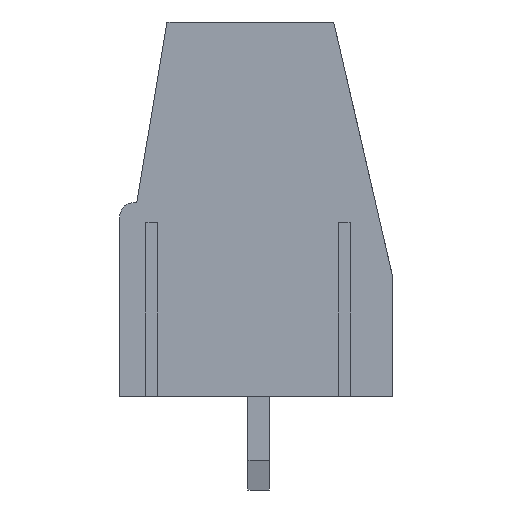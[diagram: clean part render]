
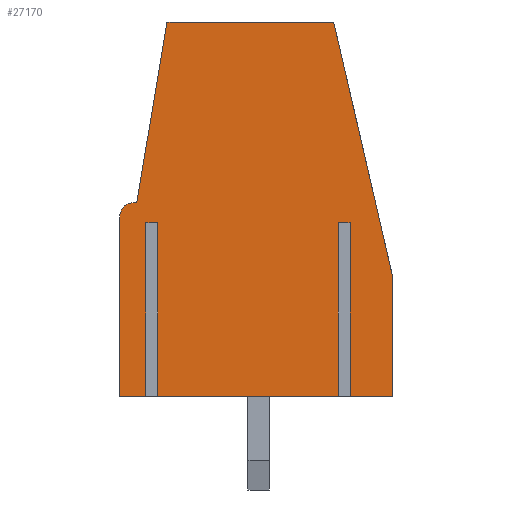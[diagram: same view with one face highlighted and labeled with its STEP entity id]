
A CAD part, left-side view. The second image highlights one B-rep face of the part: STEP entity #27170.
In plain terms, the highlighted planar face has unit normal (-1, 0, 0).
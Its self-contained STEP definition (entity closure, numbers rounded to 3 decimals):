
#283 = EDGE_CURVE ( 'NONE', #11171, #27321, #33296, .T. ) ;
#362 = CARTESIAN_POINT ( 'NONE',  ( -10.16, 3.78, 7.666 ) ) ;
#682 = ORIENTED_EDGE ( 'NONE', *, *, #2085, .T. ) ;
#871 = DIRECTION ( 'NONE',  ( 0., -0.225, -0.974 ) ) ;
#904 = LINE ( 'NONE', #27424, #30717 ) ;
#924 = CARTESIAN_POINT ( 'NONE',  ( -10.16, 3.78, 0. ) ) ;
#952 = CIRCLE ( 'NONE', #9663, 0.55 ) ;
#1245 = LINE ( 'NONE', #23560, #36131 ) ;
#1531 = CARTESIAN_POINT ( 'NONE',  ( -10.16, 4.65, 7.25 ) ) ;
#1637 = VERTEX_POINT ( 'NONE', #22351 ) ;
#2085 = EDGE_CURVE ( 'NONE', #20032, #4515, #18651, .T. ) ;
#2288 = CARTESIAN_POINT ( 'NONE',  ( -10.16, 4.65, 6.7 ) ) ;
#2817 = LINE ( 'NONE', #40983, #20334 ) ;
#2867 = DIRECTION ( 'NONE',  ( 0., 0., 1. ) ) ;
#2897 = CARTESIAN_POINT ( 'NONE',  ( -10.16, 4.22, 0. ) ) ;
#2988 = LINE ( 'NONE', #22136, #17667 ) ;
#3461 = ORIENTED_EDGE ( 'NONE', *, *, #283, .F. ) ;
#3864 = ORIENTED_EDGE ( 'NONE', *, *, #36585, .F. ) ;
#4173 = CARTESIAN_POINT ( 'NONE',  ( -10.16, 3.78, 6.5 ) ) ;
#4515 = VERTEX_POINT ( 'NONE', #924 ) ;
#4631 = ORIENTED_EDGE ( 'NONE', *, *, #22652, .F. ) ;
#4940 = CARTESIAN_POINT ( 'NONE',  ( -10.16, 4.22, 7.666 ) ) ;
#5141 = LINE ( 'NONE', #4940, #21765 ) ;
#5151 = EDGE_LOOP ( 'NONE', ( #17443, #26008, #36995, #26609, #3461, #8369, #24811, #9865, #35951, #35431, #682, #3864, #4631, #12702, #11848, #36289 ) ) ;
#5709 = DIRECTION ( 'NONE',  ( 0., -0.165, 0.986 ) ) ;
#6490 = CARTESIAN_POINT ( 'NONE',  ( -10.16, -2.98, 6.5 ) ) ;
#6512 = LINE ( 'NONE', #13690, #19497 ) ;
#6984 = VERTEX_POINT ( 'NONE', #20394 ) ;
#7142 = EDGE_CURVE ( 'NONE', #20778, #11171, #952, .T. ) ;
#7367 = LINE ( 'NONE', #35876, #28471 ) ;
#7788 = VECTOR ( 'NONE', #27075, 1000. ) ;
#7916 = VECTOR ( 'NONE', #24576, 1000. ) ;
#8278 = LINE ( 'NONE', #40542, #7788 ) ;
#8369 = ORIENTED_EDGE ( 'NONE', *, *, #7142, .F. ) ;
#8632 = PLANE ( 'NONE',  #22632 ) ;
#8802 = DIRECTION ( 'NONE',  ( 1., 0., 0. ) ) ;
#8978 = CARTESIAN_POINT ( 'NONE',  ( -10.16, -3.42, 7.666 ) ) ;
#9430 = EDGE_CURVE ( 'NONE', #30726, #19473, #904, .T. ) ;
#9663 = AXIS2_PLACEMENT_3D ( 'NONE', #2288, #8802, #34131 ) ;
#9682 = EDGE_CURVE ( 'NONE', #32602, #19181, #1245, .T. ) ;
#9865 = ORIENTED_EDGE ( 'NONE', *, *, #17190, .F. ) ;
#9967 = CARTESIAN_POINT ( 'NONE',  ( -10.16, 5.2, 6.7 ) ) ;
#10365 = DIRECTION ( 'NONE',  ( 0., -1., 0. ) ) ;
#11121 = CARTESIAN_POINT ( 'NONE',  ( -10.16, 5.2, 0. ) ) ;
#11171 = VERTEX_POINT ( 'NONE', #1531 ) ;
#11512 = EDGE_CURVE ( 'NONE', #1637, #20778, #32849, .T. ) ;
#11848 = ORIENTED_EDGE ( 'NONE', *, *, #29604, .T. ) ;
#12120 = CARTESIAN_POINT ( 'NONE',  ( -10.16, 4.65, 6.7 ) ) ;
#12702 = ORIENTED_EDGE ( 'NONE', *, *, #9430, .T. ) ;
#12790 = CARTESIAN_POINT ( 'NONE',  ( -10.16, 5.2, 6.7 ) ) ;
#13066 = VECTOR ( 'NONE', #27617, 1000. ) ;
#13209 = DIRECTION ( 'NONE',  ( 0., 0., 1. ) ) ;
#13690 = CARTESIAN_POINT ( 'NONE',  ( -10.16, -2.98, 7.666 ) ) ;
#13692 = DIRECTION ( 'NONE',  ( -1., 0., 0. ) ) ;
#13878 = DIRECTION ( 'NONE',  ( 0., 1., 0. ) ) ;
#14328 = CARTESIAN_POINT ( 'NONE',  ( -10.16, 5.2, 0. ) ) ;
#14477 = EDGE_CURVE ( 'NONE', #41568, #20032, #2817, .T. ) ;
#15380 = VECTOR ( 'NONE', #36871, 1000. ) ;
#16081 = CARTESIAN_POINT ( 'NONE',  ( -10.16, -5., 0. ) ) ;
#16300 = EDGE_CURVE ( 'NONE', #27321, #25044, #2988, .T. ) ;
#16473 = EDGE_CURVE ( 'NONE', #25814, #6984, #7367, .T. ) ;
#17190 = EDGE_CURVE ( 'NONE', #36672, #1637, #33953, .T. ) ;
#17271 = CARTESIAN_POINT ( 'NONE',  ( -10.16, -3.42, 0. ) ) ;
#17415 = CARTESIAN_POINT ( 'NONE',  ( -10.16, 4.22, 6.5 ) ) ;
#17443 = ORIENTED_EDGE ( 'NONE', *, *, #18860, .F. ) ;
#17667 = VECTOR ( 'NONE', #5709, 1000. ) ;
#17997 = DIRECTION ( 'NONE',  ( 0., 0., -1. ) ) ;
#18651 = LINE ( 'NONE', #362, #27332 ) ;
#18860 = EDGE_CURVE ( 'NONE', #6984, #32602, #29592, .T. ) ;
#19181 = VERTEX_POINT ( 'NONE', #17271 ) ;
#19473 = VERTEX_POINT ( 'NONE', #40402 ) ;
#19497 = VECTOR ( 'NONE', #25712, 1000. ) ;
#20032 = VERTEX_POINT ( 'NONE', #4173 ) ;
#20334 = VECTOR ( 'NONE', #31081, 1000. ) ;
#20394 = CARTESIAN_POINT ( 'NONE',  ( -10.16, -5., 4.502 ) ) ;
#20778 = VERTEX_POINT ( 'NONE', #9967 ) ;
#21345 = CARTESIAN_POINT ( 'NONE',  ( -10.16, -2.807, 14. ) ) ;
#21371 = LINE ( 'NONE', #8978, #7916 ) ;
#21765 = VECTOR ( 'NONE', #17997, 1000. ) ;
#22136 = CARTESIAN_POINT ( 'NONE',  ( -10.16, 3.428, 14. ) ) ;
#22351 = CARTESIAN_POINT ( 'NONE',  ( -10.16, 5.2, 0. ) ) ;
#22632 = AXIS2_PLACEMENT_3D ( 'NONE', #23175, #13692, #32728 ) ;
#22652 = EDGE_CURVE ( 'NONE', #30726, #28206, #6512, .T. ) ;
#23175 = CARTESIAN_POINT ( 'NONE',  ( -10.16, 4.65, 6.7 ) ) ;
#23560 = CARTESIAN_POINT ( 'NONE',  ( -10.16, 5.2, 0. ) ) ;
#24576 = DIRECTION ( 'NONE',  ( 0., 0., -1. ) ) ;
#24811 = ORIENTED_EDGE ( 'NONE', *, *, #11512, .F. ) ;
#25044 = VERTEX_POINT ( 'NONE', #32229 ) ;
#25422 = DIRECTION ( 'NONE',  ( 0., 0., -1. ) ) ;
#25712 = DIRECTION ( 'NONE',  ( 0., 0., -1. ) ) ;
#25814 = VERTEX_POINT ( 'NONE', #21345 ) ;
#25850 = EDGE_CURVE ( 'NONE', #41568, #36672, #5141, .T. ) ;
#26008 = ORIENTED_EDGE ( 'NONE', *, *, #16473, .F. ) ;
#26609 = ORIENTED_EDGE ( 'NONE', *, *, #16300, .F. ) ;
#26797 = EDGE_CURVE ( 'NONE', #25044, #25814, #8278, .T. ) ;
#27075 = DIRECTION ( 'NONE',  ( 0., -1., 0. ) ) ;
#27170 = ADVANCED_FACE ( 'NONE', ( #31021 ), #8632, .T. ) ;
#27321 = VERTEX_POINT ( 'NONE', #27374 ) ;
#27332 = VECTOR ( 'NONE', #25422, 1000. ) ;
#27374 = CARTESIAN_POINT ( 'NONE',  ( -10.16, 4.559, 7.242 ) ) ;
#27424 = CARTESIAN_POINT ( 'NONE',  ( -10.16, -2.98, 6.5 ) ) ;
#27617 = DIRECTION ( 'NONE',  ( 0., 1., 0. ) ) ;
#28206 = VERTEX_POINT ( 'NONE', #33376 ) ;
#28471 = VECTOR ( 'NONE', #871, 1000. ) ;
#29592 = LINE ( 'NONE', #32981, #38329 ) ;
#29604 = EDGE_CURVE ( 'NONE', #19473, #19181, #21371, .T. ) ;
#30717 = VECTOR ( 'NONE', #10365, 1000. ) ;
#30726 = VERTEX_POINT ( 'NONE', #6490 ) ;
#31021 = FACE_OUTER_BOUND ( 'NONE', #5151, .T. ) ;
#31081 = DIRECTION ( 'NONE',  ( 0., -1., 0. ) ) ;
#32229 = CARTESIAN_POINT ( 'NONE',  ( -10.16, 3.428, 14. ) ) ;
#32602 = VERTEX_POINT ( 'NONE', #16081 ) ;
#32728 = DIRECTION ( 'NONE',  ( 0., 0., 1. ) ) ;
#32849 = LINE ( 'NONE', #12790, #41680 ) ;
#32981 = CARTESIAN_POINT ( 'NONE',  ( -10.16, -5., 0. ) ) ;
#33296 = CIRCLE ( 'NONE', #34631, 0.55 ) ;
#33376 = CARTESIAN_POINT ( 'NONE',  ( -10.16, -2.98, 0. ) ) ;
#33953 = LINE ( 'NONE', #14328, #13066 ) ;
#34131 = DIRECTION ( 'NONE',  ( 0., 0., 1. ) ) ;
#34631 = AXIS2_PLACEMENT_3D ( 'NONE', #12120, #41244, #2867 ) ;
#35431 = ORIENTED_EDGE ( 'NONE', *, *, #14477, .T. ) ;
#35876 = CARTESIAN_POINT ( 'NONE',  ( -10.16, -3.8, 9.7 ) ) ;
#35951 = ORIENTED_EDGE ( 'NONE', *, *, #25850, .F. ) ;
#36131 = VECTOR ( 'NONE', #13878, 1000. ) ;
#36140 = DIRECTION ( 'NONE',  ( 0., 0., -1. ) ) ;
#36289 = ORIENTED_EDGE ( 'NONE', *, *, #9682, .F. ) ;
#36585 = EDGE_CURVE ( 'NONE', #28206, #4515, #40015, .T. ) ;
#36672 = VERTEX_POINT ( 'NONE', #2897 ) ;
#36871 = DIRECTION ( 'NONE',  ( 0., 1., 0. ) ) ;
#36995 = ORIENTED_EDGE ( 'NONE', *, *, #26797, .F. ) ;
#38329 = VECTOR ( 'NONE', #36140, 1000. ) ;
#40015 = LINE ( 'NONE', #11121, #15380 ) ;
#40402 = CARTESIAN_POINT ( 'NONE',  ( -10.16, -3.42, 6.5 ) ) ;
#40542 = CARTESIAN_POINT ( 'NONE',  ( -10.16, -2.807, 14. ) ) ;
#40983 = CARTESIAN_POINT ( 'NONE',  ( -10.16, 4.22, 6.5 ) ) ;
#41244 = DIRECTION ( 'NONE',  ( 1., 0., 0. ) ) ;
#41568 = VERTEX_POINT ( 'NONE', #17415 ) ;
#41680 = VECTOR ( 'NONE', #13209, 1000. ) ;
